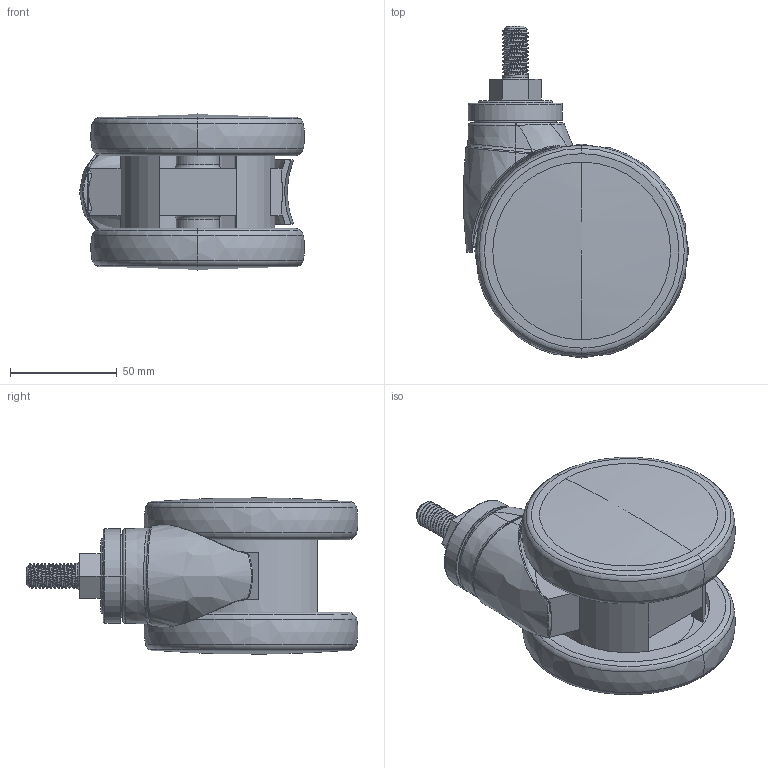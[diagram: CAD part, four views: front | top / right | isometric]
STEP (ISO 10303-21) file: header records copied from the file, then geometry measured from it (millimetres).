
FILE_DESCRIPTION((''),'2;1');
FILE_NAME('E19034-57_ASM','2022-09-17T',('lenovo'),(''),'PRO/ENGINEER BY PARAMETRIC TECHNOLOGY CORPORATION, 2010280','PRO/ENGINEER BY PARAMETRIC TECHNOLOGY CORPORATION, 2010280','');
FILE_SCHEMA(('CONFIG_CONTROL_DESIGN'));
Length unit declared in the file: millimetre
Products named in the file (10): E1904-701; MANIFOLD_SOLID_BREP_93; MANIFOLD_SOLID_BREP_94; MANIFOLD_SOLID_BREP_95; ASM0003_ASM; LUNZI_ASM; E1904-251; SIKOU4; E1904-891; E19034-57_ASM
Assembly tree (11 placements, depth 4):
  E19034-57_ASM
    E1904-701
    LUNZI_ASM  x2
      ASM0003_ASM
        MANIFOLD_SOLID_BREP_93
        MANIFOLD_SOLID_BREP_94
        MANIFOLD_SOLID_BREP_95
    E1904-251
    SIKOU4
    E1904-891  x2
Bounding box: 105.18 x 155.11 x 73.09 mm (x, y, z)
Volume: 350616.3 mm3; surface area: 155442.4 mm2
Topology: 11 solids, 19 shells, 692 faces, 1687 edges, 1053 vertices
Faces by surface type: plane 202, torus 194, cylinder 128, bspline 123, cone 33, sphere 10, extrusion 2
Entity records: 24613 total; most frequent: CARTESIAN_POINT 13254, ORIENTED_EDGE 2408, DIRECTION 2185, EDGE_CURVE 1226, AXIS2_PLACEMENT_3D 891, VERTEX_POINT 772, EDGE_LOOP 546, FACE_OUTER_BOUND 504
